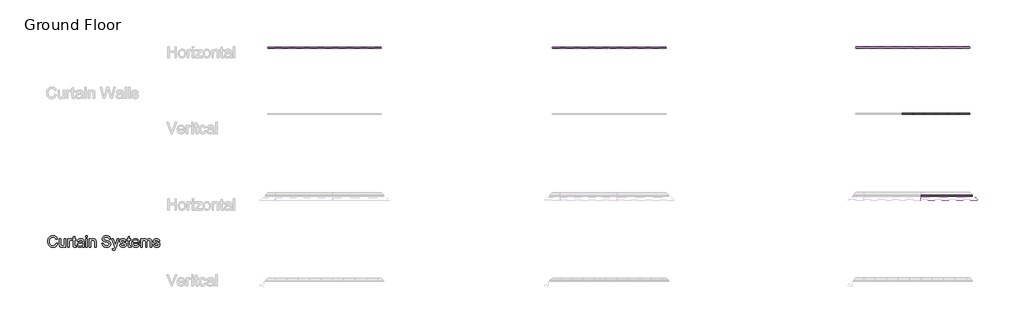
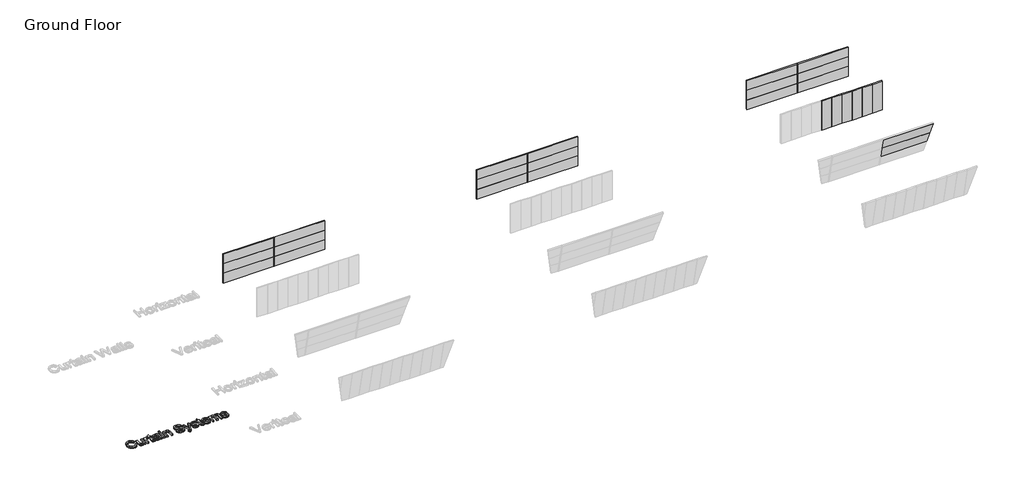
# One storey, part 2 of 7: 26 plates, 9 members, 1 proxy.
"""IFC4 building model written with IfcOpenShell, lengths in millimetres."""

from ifc_helpers import new_model, si_unit, origin, origin_with_axes, place, context, project, spatial, polyline, outline, extrude, transform, mapped, element, save
from components import rectangular_mullion_pi_mullion_20gap_50depth_70width_d0ed6173, system_panel_2c57112f, system_panel_1b0c88f6, system_panel_ba8f056f, system_panel_48e39383, system_panel_36b0335f, system_panel_5c141952

model = new_model("IFC4")

# Units and contexts
model_context = context("Model", 3, world=origin())
ifc_project = project(units=[si_unit("LENGTHUNIT", "METRE", prefix="MILLI")], contexts=[model_context])

# Site, building, storey
site = spatial("IfcSite", under=ifc_project)
building = spatial("IfcBuilding", under=site)
storey = spatial("IfcBuildingStorey", under=building, Name="Ground Floor", Elevation=0.0)

# Proxy
placement = place(None, origin())
element("IfcBuildingElementProxy", 1, Name="1200mm Arial", ObjectType="1200mm Arial", at=placement, inside=storey, context=model_context, shape_type="SweptSolid", body=[
    extrude(outline(polyline([(-73278.3441207, -15688.8792454), (-73131.4350298, -15726.7542454), (-73160.5048096, -15818.1151296), (-73178.6577304, -15859.4714196), (-73199.2226718, -15897.9449414), (-73222.1996338, -15933.5356952), (-73247.5886164, -15966.2436808), (-73275.3896196, -15996.0688983), (-73305.6026434, -16023.0113477), (-73337.9004062, -16046.9185964), (-73371.9556264, -16067.638212), (-73407.7683039, -16085.1701945), (-73445.3384389, -16099.5145437), (-73484.6660312, -16110.6712598), (-73525.7510809, -16118.6403427), (-73568.593588, -16123.4217925), (-73613.1935525, -16125.0156091), (-73702.7790461, -16120.1915679), (-73783.595186, -16105.7194443), (-73855.6419722, -16081.5992383), (-73918.9194048, -16047.83095), (-73974.2972457, -16004.9167099), (-74022.645257, -15953.3586488), (-74063.9634389, -15893.1567667), (-74098.2517911, -15824.3110636), (-74125.1785489, -15749.7984571), (-74144.4119474, -15672.5958647), (-74155.9519864, -15592.7032866), (-74159.7986661, -15510.1207227), (-74155.4498558, -15421.5125906), (-74142.4034247, -15338.7506943), (-74120.6593728, -15261.8350338), (-74090.2177002, -15190.7656091), (-74051.75987, -15126.7170473), (-74005.9673451, -15070.8639755), (-73952.8401256, -15023.2063939), (-73892.3782116, -14983.7443022), (-73826.6349587, -14952.800499), (-73757.663723, -14930.6977823), (-73685.4645042, -14917.4361524), (-73610.0373025, -14913.0156091), (-73526.0111129, -14918.7363122), (-73448.9609531, -14935.8984216), (-73413.0518844, -14948.7700036), (-73378.8868231, -14964.5019372), (-73346.4657693, -14983.0942223), (-73315.788723, -15004.5468591), (-73287.115716, -15028.5953321), (-73260.7067805, -15054.9751261), (-73236.5619163, -15083.6862412), (-73214.6811235, -15114.7286772), (-73177.7117521, -15183.8075125), (-73149.7986661, -15262.2116318), (-73296.707757, -15297.2173136), (-73319.8416349, -15239.4453853), (-73347.6381548, -15190.084146), (-73380.0973167, -15149.1335956), (-73417.2191207, -15116.5937341), (-73459.2187656, -15091.8010316), (-73506.3114502, -15074.0919585), (-73558.4971747, -15063.4665146), (-73615.7759389, -15059.9247), (-73681.6805908, -15063.8520792), (-73741.9542059, -15075.634217), (-73796.596784, -15095.2711133), (-73845.6083252, -15122.7627681), (-73888.3701328, -15156.871788), (-73924.2635099, -15196.3607795), (-73953.2884566, -15241.2297426), (-73975.444973, -15291.4786772), (-73991.8269864, -15344.8300622), (-74003.5284247, -15399.0063761), (-74010.5492876, -15454.007619), (-74012.8895752, -15509.8337909), (-74010.1188899, -15579.9886204), (-74001.8068337, -15645.5525409), (-73987.9534069, -15706.5255522), (-73968.5586093, -15762.9076545), (-73943.3086093, -15813.5780203), (-73911.8895752, -15857.4158221), (-73874.301507, -15894.42106), (-73830.5444048, -15924.5937341), (-73782.7433572, -15948.0055771), (-73733.0234531, -15964.7283221), (-73681.3846924, -15974.7619691), (-73627.8270752, -15978.1065181), (-73563.9578458, -15973.5514755), (-73505.1995894, -15959.8863477), (-73451.552306, -15937.1111346), (-73403.0159957, -15905.2258363), (-73360.7383856, -15864.3739187), (-73325.8672031, -15814.6988477), (-73298.4024481, -15756.2006233), (-73278.3441207, -15688.8792454)])), origin_with_axes(), (0.0, 0.0, 1.0), 150.0),
    extrude(outline(polyline([(-72396.8895752, -16106.6519727), (-72396.8895752, -15958.3082227), (-72422.3727073, -15997.3802664), (-72450.0436945, -16031.2427042), (-72479.9025369, -16059.8955363), (-72511.9492343, -16083.3387625), (-72546.1837869, -16101.5723828), (-72582.6061945, -16114.5963974), (-72621.2164573, -16122.4108061), (-72662.0145752, -16125.0156091), (-72698.410083, -16123.1864187), (-72733.5681974, -16117.6988477), (-72767.4889183, -16108.552896), (-72800.1722457, -16095.7485636), (-72830.1745539, -16080.1825125), (-72856.0522173, -16062.7514045), (-72877.8052357, -16043.4552397), (-72895.4336093, -16022.2940181), (-72909.8429666, -15998.9628747), (-72921.938936, -15973.1569443), (-72939.1907116, -15914.1207227), (-72945.6466775, -15858.45595), (-72947.7986661, -15777.5411772), (-72947.7986661, -15243.5610636), (-72800.8895752, -15243.5610636), (-72800.8895752, -15708.3906091), (-72798.6658536, -15801.3565181), (-72791.9946889, -15858.1690181), (-72783.1984353, -15884.647445), (-72770.5824019, -15908.131021), (-72754.1465887, -15928.6197461), (-72733.8909957, -15946.1136204), (-72710.4253529, -15960.1105132), (-72684.3593906, -15970.1082937), (-72655.6931086, -15976.106962), (-72624.426507, -15978.1065181), (-72592.2273771, -15976.0621289), (-72561.0504417, -15969.9289613), (-72530.8957009, -15959.7070153), (-72501.7631548, -15945.3962909), (-72475.2309282, -15927.561685), (-72452.8771462, -15906.7680948), (-72434.7018089, -15883.0155203), (-72420.7049161, -15856.3039613), (-72410.2857045, -15824.9297603), (-72402.8434105, -15787.1892596), (-72398.378034, -15743.0824592), (-72396.8895752, -15692.6093591), (-72396.8895752, -15243.5610636), (-72249.9804843, -15243.5610636), (-72249.9804843, -16106.6519727), (-72396.8895752, -16106.6519727)])), origin_with_axes(), (0.0, 0.0, 1.0), 150.0),
    extrude(outline(polyline([(-72047.9804843, -16106.6519727), (-72047.9804843, -15243.5610636), (-71919.4350298, -15243.5610636), (-71919.4350298, -15371.2457227), (-71895.2251576, -15330.4296716), (-71871.9478139, -15297.2173136), (-71849.6029985, -15271.6086488), (-71828.1907116, -15253.6036772), (-71806.7425582, -15241.1759429), (-71784.2901434, -15232.2989897), (-71760.8334673, -15226.9728179), (-71736.3725298, -15225.1974272), (-71699.9321889, -15228.0308789), (-71663.2049161, -15236.5312341), (-71626.1907116, -15250.6984926), (-71588.8895752, -15270.5326545), (-71637.9549161, -15402.2343591), (-71663.7787798, -15389.0534287), (-71689.6026434, -15379.6384784), (-71715.426507, -15373.9895082), (-71741.2503707, -15372.1065181), (-71763.7655518, -15373.9177752), (-71785.1150724, -15379.3515466), (-71805.2989325, -15388.4078321), (-71824.317132, -15401.0866318), (-71841.4523416, -15416.9754812), (-71855.9872315, -15435.6619159), (-71867.9218018, -15457.1459358), (-71877.2560525, -15481.4275409), (-71887.6752641, -15521.5262625), (-71895.1175582, -15563.4900409), (-71901.0713934, -15653.0127681), (-71901.0713934, -16106.6519727), (-72047.9804843, -16106.6519727)])), origin_with_axes(), (0.0, 0.0, 1.0), 150.0),
    extrude(outline(polyline([(-71184.8895752, -15984.1320863), (-71166.5259389, -16110.95595), (-71224.701365, -16121.5006943), (-71276.4208252, -16125.0156091), (-71313.9192272, -16123.4912838), (-71346.9343195, -16118.9183079), (-71375.4661022, -16111.2966815), (-71399.5145752, -16100.6264045), (-71419.7074019, -16087.4813406), (-71436.6722457, -16072.4353534), (-71450.4091065, -16055.4884429), (-71460.9179843, -16036.6406091), (-71468.7010099, -16011.3726758), (-71474.2603139, -15975.165467), (-71478.707757, -15869.9332227), (-71478.707757, -15390.4701545), (-71588.8895752, -15390.4701545), (-71588.8895752, -15243.5610636), (-71478.707757, -15243.5610636), (-71478.707757, -15033.8139045), (-71331.7986661, -14947.4474272), (-71331.7986661, -15243.5610636), (-71184.8895752, -15243.5610636), (-71184.8895752, -15390.4701545), (-71331.7986661, -15390.4701545), (-71331.7986661, -15865.6292454), (-71329.8618764, -15913.9772568), (-71324.051507, -15941.3792454), (-71313.901294, -15956.5507653), (-71298.944973, -15968.2073704), (-71277.7478849, -15975.6317312), (-71248.8753707, -15978.1065181), (-71184.8895752, -15984.1320863)])), origin_with_axes(), (0.0, 0.0, 1.0), 150.0),
    extrude(outline(polyline([(-70487.0713934, -15996.4701545), (-70521.9067095, -16029.1624485), (-70557.2620894, -16056.6541034), (-70593.1375333, -16078.945119), (-70629.5330411, -16096.0354954), (-70666.8610774, -16108.7142951), (-70705.5341065, -16117.7705806), (-70745.5521285, -16123.2043519), (-70786.9151434, -16125.0156091), (-70852.3266313, -16120.6578321), (-70909.6860951, -16107.5845011), (-70958.9935347, -16085.7956162), (-71000.2489502, -16055.2911772), (-71032.8246782, -16018.0079741), (-71056.0930553, -15975.8827966), (-71070.0540816, -15928.9156446), (-71074.707757, -15877.1065181), (-71072.9502997, -15845.9564826), (-71067.6779275, -15816.2052397), (-71058.8906406, -15787.8527894), (-71046.5884389, -15760.8991318), (-71031.4258856, -15735.9360636), (-71014.057544, -15713.5553818), (-70994.483414, -15693.7570863), (-70972.7034957, -15676.5411772), (-70924.104419, -15648.565325), (-70869.8384389, -15628.3366318), (-70816.9712514, -15617.0745579), (-70742.7276434, -15606.2428818), (-70592.5188366, -15583.0014045), (-70534.5227428, -15569.8742738), (-70487.9321889, -15555.7428818), (-70487.0713934, -15523.0326545), (-70489.5999801, -15487.4172426), (-70497.18574, -15457.4687341), (-70509.8286732, -15433.1871289), (-70527.5287798, -15414.5724272), (-70558.1228849, -15395.993592), (-70595.3881548, -15382.7229954), (-70639.3245894, -15374.7606375), (-70689.9321889, -15372.1065181), (-70736.989007, -15373.8729421), (-70777.4463934, -15379.1722142), (-70811.304348, -15388.0043342), (-70838.5628707, -15400.3693022), (-70860.9614857, -15417.2355132), (-70880.2397173, -15439.5713619), (-70896.3975653, -15467.3768484), (-70909.4350298, -15500.6519727), (-71056.3441207, -15482.2883363), (-71045.1627464, -15439.9658931), (-71030.8430553, -15401.9474272), (-71013.3850475, -15368.2329386), (-70992.788723, -15338.8224272), (-70968.1663863, -15313.1240963), (-70938.6303423, -15290.5461488), (-70904.1805908, -15271.0885849), (-70864.817132, -15254.7514045), (-70821.337995, -15241.8215394), (-70774.5412087, -15232.5859216), (-70724.4267734, -15227.0445508), (-70670.9946889, -15225.1974272), (-70618.7641313, -15226.8293519), (-70571.6804133, -15231.7251261), (-70529.7435347, -15239.8847497), (-70492.9534957, -15251.3082227), (-70461.005431, -15265.197516), (-70433.5944758, -15280.7546005), (-70410.7206299, -15297.9794762), (-70392.3838934, -15316.8721431), (-70377.5172386, -15337.8988654), (-70365.0536377, -15361.5259073), (-70347.335598, -15416.58095), (-70341.9556264, -15467.3678818), (-70340.1623025, -15545.1264045), (-70340.1623025, -15727.9019727), (-70338.2972457, -15887.1132653), (-70332.7020752, -15983.127825), (-70321.6552002, -16046.2169585), (-70303.4350298, -16106.6519727), (-70450.3441207, -16106.6519727), (-70463.3995184, -16082.1193022), (-70473.8725298, -16055.5781091), (-70487.0713934, -15996.4701545)]), holes=[polyline([(-70487.0713934, -15702.6519727), (-70531.4740923, -15715.3666389), (-70585.7759389, -15727.1129102), (-70724.0770752, -15747.7002681), (-70800.2933394, -15758.962342), (-70850.4705411, -15771.5156091), (-70883.3601008, -15787.7989897), (-70907.7134389, -15810.2514045), (-70922.7773593, -15837.1512625), (-70927.7986661, -15866.7769727), (-70925.0638472, -15889.6059855), (-70916.8593906, -15910.462342), (-70903.1852961, -15929.3460423), (-70884.0415639, -15946.2570863), (-70859.6075262, -15960.1912127), (-70830.0625156, -15970.1441602), (-70795.4065319, -15976.1159287), (-70755.6395752, -15978.1065181), (-70715.038723, -15975.9096964), (-70676.7333252, -15969.3192312), (-70640.723382, -15958.3351225), (-70607.0088934, -15942.9573704), (-70576.5941207, -15924.4592348), (-70550.4833252, -15904.1139755), (-70528.676507, -15881.9215927), (-70511.1736661, -15857.8820863), (-70501.0055198, -15836.3622), (-70493.7425582, -15810.2514045), (-70489.3847812, -15779.5497), (-70487.9321889, -15744.2570863), (-70487.0713934, -15702.6519727)])]), origin_with_axes(), (0.0, 0.0, 1.0), 150.0),
    extrude(outline(polyline([(-70138.1623025, -16106.6519727), (-70138.1623025, -15243.5610636), (-69991.2532116, -15243.5610636), (-69991.2532116, -16106.6519727), (-70138.1623025, -16106.6519727)])), origin_with_axes(), (0.0, 0.0, 1.0), 150.0),
    extrude(outline(polyline([(-70138.1623025, -15078.2883363), (-70138.1623025, -14931.3792454), (-69991.2532116, -14931.3792454), (-69991.2532116, -15078.2883363), (-70138.1623025, -15078.2883363)])), origin_with_axes(), (0.0, 0.0, 1.0), 150.0),
    extrude(outline(polyline([(-69770.8895752, -16106.6519727), (-69770.8895752, -15243.5610636), (-69623.9804843, -15243.5610636), (-69623.9804843, -15364.0724272), (-69599.7437123, -15331.5235991), (-69572.9424872, -15303.3146147), (-69543.5768089, -15279.4454741), (-69511.6466775, -15259.9161772), (-69477.152093, -15244.7267241), (-69440.0930553, -15233.8771147), (-69400.4695646, -15227.3673491), (-69358.2816207, -15225.1974272), (-69321.3122492, -15226.945918), (-69285.8672031, -15232.1913903), (-69251.9464822, -15240.9338441), (-69219.5500866, -15253.1732795), (-69189.9064431, -15268.2551332), (-69164.2439786, -15285.524842), (-69142.5626931, -15304.9824059), (-69124.8625866, -15326.627825), (-69098.142061, -15376.3746289), (-69080.8185525, -15434.6576545), (-69075.0081832, -15490.3941602), (-69073.0713934, -15576.6889045), (-69073.0713934, -16106.6519727), (-69219.9804843, -16106.6519727), (-69219.9804843, -15596.4872), (-69224.2127286, -15520.5220011), (-69229.503034, -15490.7707582), (-69236.9094616, -15466.5070863), (-69246.9969083, -15446.0721609), (-69260.3302712, -15427.8071573), (-69276.9095504, -15411.7120757), (-69296.7347457, -15397.7869159), (-69319.1243941, -15386.5517419), (-69343.3970326, -15378.5266176), (-69369.5526612, -15373.711543), (-69397.5912798, -15372.1065181), (-69442.2002109, -15375.7110991), (-69483.6349587, -15386.524842), (-69521.8955234, -15404.5477468), (-69556.9819048, -15429.7798136), (-69572.6846969, -15445.8166122), (-69586.2937833, -15465.0903605), (-69597.8091642, -15487.6010583), (-69607.2308394, -15513.3487056), (-69619.7930731, -15574.5548491), (-69623.9804843, -15648.7087909), (-69623.9804843, -16106.6519727), (-69770.8895752, -16106.6519727)])), origin_with_axes(), (0.0, 0.0, 1.0), 150.0),
    extrude(outline(polyline([(-68448.707757, -15702.6519727), (-68301.7986661, -15702.6519727), (-68295.0737016, -15745.4137802), (-68284.9414218, -15784.1764755), (-68271.4018266, -15818.9400586), (-68254.4549161, -15849.7045295), (-68233.2398948, -15877.0885849), (-68206.8959673, -15901.7109216), (-68175.4231335, -15923.5715394), (-68138.8213934, -15942.6704386), (-68098.43574, -15958.1737234), (-68055.6111661, -15969.2474983), (-68010.3476718, -15975.8917632), (-67962.645257, -15978.1065181), (-67920.4483465, -15976.4297603), (-67880.7979559, -15971.3994869), (-67843.6940852, -15963.0156978), (-67809.1367343, -15951.2783931), (-67777.9777322, -15936.6090039), (-67751.0689076, -15919.4289613), (-67728.4102606, -15899.7382653), (-67710.0017911, -15877.5369159), (-67695.753833, -15853.7843413), (-67685.5767201, -15829.4399698), (-67679.4704524, -15804.5038015), (-67677.4350298, -15778.9758363), (-67678.9593551, -15753.5554706), (-67683.5323309, -15729.802896), (-67691.1539573, -15707.7181126), (-67701.8242343, -15687.3011204), (-67717.2109531, -15668.44432), (-67738.9819048, -15651.0401119), (-67767.1370894, -15635.0884961), (-67801.676507, -15620.5894727), (-67879.2556974, -15597.5273278), (-68015.5841775, -15564.4943022), (-68156.001436, -15527.3724983), (-68207.2456654, -15509.4840927), (-68245.8469616, -15492.0440181), (-68285.0759211, -15468.6411417), (-68318.9787087, -15442.6200125), (-68347.5553245, -15413.9806304), (-68370.8057684, -15382.7229954), (-68388.8197066, -15349.1699059), (-68401.6868053, -15313.6441602), (-68409.4070646, -15276.1457582), (-68411.9804843, -15236.6747), (-68408.7973345, -15192.9265643), (-68399.2478849, -15150.631021), (-68383.3321356, -15109.78807), (-68361.0500866, -15070.3977113), (-68332.6528032, -15034.0649698), (-68298.3913508, -15002.3948704), (-68258.2657293, -14975.387413), (-68212.2759389, -14953.0425977), (-68161.9732045, -14935.5307902), (-68108.9087514, -14923.0223562), (-68053.0825795, -14915.5172958), (-67994.4946889, -14913.0156091), (-67930.5806264, -14915.6338619), (-67870.5401434, -14923.4886204), (-67814.37324, -14936.5798846), (-67762.0799161, -14954.9076545), (-67714.6285667, -14978.3105309), (-67672.9875866, -15006.6271147), (-67637.1569758, -15039.8574059), (-67607.1367343, -15078.0014045), (-67583.1599943, -15119.9472497), (-67565.4598877, -15164.5830806), (-67554.0364147, -15211.9088974), (-67548.8895752, -15261.9247), (-67695.7986661, -15261.9247), (-67705.6260809, -15215.0472142), (-67722.770257, -15174.2670295), (-67747.2311945, -15139.584146), (-67779.0088934, -15110.9985636), (-67818.6951505, -15088.6537483), (-67866.8817627, -15072.6931659), (-67923.5687301, -15063.1168164), (-67988.7560525, -15059.9247), (-68056.0236306, -15063.08095), (-68113.4996605, -15072.5497), (-68161.184142, -15088.33095), (-68199.0770752, -15110.4247), (-68227.9495894, -15136.9838264), (-68248.5728139, -15166.1612056), (-68260.9467485, -15197.9568377), (-68265.0713934, -15232.3707227), (-68262.1482755, -15261.9784997), (-68253.3789218, -15288.8245579), (-68238.7633323, -15312.9088974), (-68218.301507, -15334.2315181), (-68186.0934105, -15354.4243448), (-68135.3782116, -15374.8323704), (-68066.1559105, -15395.4555948), (-67978.426507, -15416.2940181), (-67816.4534957, -15455.6754102), (-67759.4616633, -15473.4831162), (-67718.4662798, -15490.0354954), (-67673.4269509, -15515.1240963), (-67634.7180553, -15543.3330806), (-67602.339593, -15574.6624485), (-67576.2915639, -15609.1122), (-67556.2691029, -15646.5030025), (-67541.9673451, -15686.6555238), (-67533.3862904, -15729.5697639), (-67530.5259389, -15775.2457227), (-67533.8166881, -15821.1996467), (-67543.688936, -15865.8085778), (-67560.1426825, -15909.072516), (-67583.1779275, -15950.9914613), (-67612.3911732, -15989.9424556), (-67647.3789218, -16024.3025409), (-67688.1411732, -16054.071717), (-67734.6779275, -16079.2499841), (-67785.6352251, -16099.272445), (-67839.6591065, -16113.5742028), (-67896.7495717, -16122.1552575), (-67956.9066207, -16125.0156091), (-68032.0558572, -16121.931092), (-68100.838794, -16112.6775409), (-68163.255431, -16097.2549556), (-68219.3057684, -16075.6633363), (-68269.3305376, -16047.8668164), (-68313.6704701, -16013.8295295), (-68352.325566, -15973.5514755), (-68385.2958252, -15927.0326545), (-68411.8549516, -15875.7794585), (-68431.2766491, -15821.2982795), (-68443.5609176, -15763.5891176), (-68448.707757, -15702.6519727)])), origin_with_axes(), (0.0, 0.0, 1.0), 150.0),
    extrude(outline(polyline([(-67328.5259389, -16437.1974272), (-67346.8895752, -16295.7400409), (-67306.8625866, -16305.4239897), (-67272.2873025, -16308.6519727), (-67233.0493764, -16304.5990608), (-67202.5628707, -16292.440325), (-67178.8192627, -16273.0365608), (-67159.8100298, -16247.2485636), (-67143.598382, -16209.3018306), (-67119.6395752, -16139.0752681), (-67108.1623025, -16103.4957227), (-67420.3441207, -15243.5610636), (-67265.4009389, -15243.5610636), (-67099.8412798, -15722.7372), (-67069.3547741, -15816.2769727), (-67042.1679843, -15914.4076545), (-66984.4946889, -15745.1178818), (-66814.3441207, -15243.5610636), (-66660.5486661, -15243.5610636), (-66960.9662798, -16127.3110636), (-67005.5841775, -16244.8096431), (-67039.0117343, -16318.9815181), (-67058.3258323, -16351.9248775), (-67078.96699, -16380.1697284), (-67100.9352073, -16403.7160707), (-67124.2304843, -16422.5639045), (-67149.3549516, -16437.0001616), (-67176.81074, -16447.3117738), (-67206.5978494, -16453.4987412), (-67238.7162798, -16455.5610636), (-67281.2539218, -16450.9701545), (-67328.5259389, -16437.1974272)])), origin_with_axes(), (0.0, 0.0, 1.0), 150.0),
    extrude(outline(polyline([(-66593.9804843, -15849.5610636), (-66447.0713934, -15831.1974272), (-66438.1944403, -15864.696717), (-66423.9016491, -15894.0354954), (-66404.1930198, -15919.2137625), (-66379.0685525, -15940.2315181), (-66348.4565141, -15956.8018306), (-66312.2851718, -15968.6377681), (-66270.5545255, -15975.7393306), (-66223.2645752, -15978.1065181), (-66176.0284247, -15975.9365963), (-66135.319973, -15969.4268306), (-66101.1392201, -15958.5772213), (-66073.4861661, -15943.3877681), (-66052.1456122, -15925.2751971), (-66036.9023593, -15905.6562341), (-66027.7564076, -15884.5308789), (-66024.707757, -15861.8991318), (-66027.7743408, -15842.0649698), (-66036.9740923, -15824.4545295), (-66052.3070113, -15809.0678108), (-66073.773098, -15795.9048136), (-66128.7922741, -15777.2542454), (-66224.9861661, -15754.0127681), (-66359.0550582, -15715.2411062), (-66446.210598, -15682.1363477), (-66476.1322066, -15665.5391353), (-66502.198169, -15646.0188051), (-66524.408485, -15623.5753569), (-66542.7631548, -15598.2087909), (-66557.1366455, -15570.6812696), (-66567.4034247, -15541.7549556), (-66573.5634921, -15511.4298491), (-66575.616848, -15479.70595), (-66573.96699, -15450.6989365), (-66569.0174161, -15422.7858505), (-66560.7681264, -15395.9666921), (-66549.2191207, -15370.2414613), (-66534.8187301, -15346.130222), (-66518.0152855, -15324.153038), (-66498.8087869, -15304.3099095), (-66477.1992343, -15286.6008363), (-66436.6342485, -15262.9648278), (-66383.8029275, -15243.1306659), (-66322.7223167, -15229.6807369), (-66257.4094616, -15225.1974272), (-66208.0392556, -15226.9997177), (-66161.7894332, -15232.4065892), (-66118.6599943, -15241.4180416), (-66078.6509389, -15254.034075), (-66042.7127286, -15269.7256588), (-66011.7958252, -15287.9637625), (-65985.9002286, -15308.748386), (-65965.0259389, -15332.0795295), (-65948.0969616, -15358.7731552), (-65934.0373025, -15389.6452255), (-65922.8469616, -15424.6957404), (-65914.5259389, -15463.9247), (-66061.4350298, -15482.2883363), (-66068.4379595, -15457.7466993), (-66079.9779985, -15436.0564471), (-66096.055147, -15417.2175799), (-66116.6694048, -15401.2300977), (-66141.9104381, -15388.4885316), (-66171.8679133, -15379.387413), (-66206.5418302, -15373.9267419), (-66245.9321889, -15372.1065181), (-66291.6260809, -15373.8460423), (-66330.2901434, -15379.0646147), (-66361.9243764, -15387.7622355), (-66386.5287798, -15399.9389045), (-66404.9820823, -15414.4289613), (-66418.1630127, -15430.0667454), (-66426.071571, -15446.8522568), (-66428.707757, -15464.7854954), (-66424.3320468, -15487.3813761), (-66411.2049161, -15507.5383363), (-66388.7525014, -15525.5433079), (-66356.4009389, -15539.9616318), (-66229.864007, -15571.2372), (-66100.0632258, -15609.6143306), (-66014.2347457, -15640.3877681), (-65984.0351718, -15655.3978889), (-65957.2787798, -15673.4566602), (-65933.9655695, -15694.5640821), (-65914.0955411, -15718.7201545), (-65898.2156583, -15745.960744), (-65886.8728849, -15776.321717), (-65880.0672208, -15809.8030735), (-65877.7986661, -15846.4048136), (-65880.4617521, -15883.1679528), (-65888.4510099, -15918.8550977), (-65901.7664396, -15953.4662483), (-65920.4080411, -15987.0014045), (-65944.0709495, -16018.1245402), (-65972.4502997, -16045.4996289), (-66005.5460916, -16069.1266708), (-66043.3583252, -16089.0056659), (-66084.8558394, -16104.760016), (-66129.007473, -16116.0131233), (-66175.8132258, -16122.7649876), (-66225.273098, -16125.0156091), (-66304.3407471, -16120.6757653), (-66373.4016491, -16107.6562341), (-66432.4558039, -16085.9570153), (-66481.5032116, -16055.5781091), (-66521.5660667, -16016.6629812), (-66553.6665639, -15969.3550977), (-66577.8047031, -15913.6544585), (-66593.9804843, -15849.5610636)])), origin_with_axes(), (0.0, 0.0, 1.0), 150.0),
    extrude(outline(polyline([(-65400.3441207, -15984.1320863), (-65381.9804843, -16110.95595), (-65440.1559105, -16121.5006943), (-65491.8753707, -16125.0156091), (-65529.3737727, -16123.4912838), (-65562.388865, -16118.9183079), (-65590.9206477, -16111.2966815), (-65614.9691207, -16100.6264045), (-65635.1619474, -16087.4813406), (-65652.1267911, -16072.4353534), (-65665.8636519, -16055.4884429), (-65676.3725298, -16036.6406091), (-65684.1555553, -16011.3726758), (-65689.7148593, -15975.165467), (-65694.1623025, -15869.9332227), (-65694.1623025, -15390.4701545), (-65804.3441207, -15390.4701545), (-65804.3441207, -15243.5610636), (-65694.1623025, -15243.5610636), (-65694.1623025, -15033.8139045), (-65547.2532116, -14947.4474272), (-65547.2532116, -15243.5610636), (-65400.3441207, -15243.5610636), (-65400.3441207, -15390.4701545), (-65547.2532116, -15390.4701545), (-65547.2532116, -15865.6292454), (-65545.3164218, -15913.9772568), (-65539.5060525, -15941.3792454), (-65529.3558394, -15956.5507653), (-65514.3995184, -15968.2073704), (-65493.2024303, -15975.6317312), (-65464.3299161, -15978.1065181), (-65400.3441207, -15984.1320863)])), origin_with_axes(), (0.0, 0.0, 1.0), 150.0),
    extrude(outline(polyline([(-64649.1566207, -15849.5610636), (-64505.116848, -15867.9247), (-64527.2016313, -15925.6159287), (-64557.0156406, -15976.4566602), (-64594.5588756, -16020.4468946), (-64639.8313366, -16057.5866318), (-64692.3667592, -16087.0868093), (-64751.6988792, -16108.1583647), (-64817.8276967, -16120.801298), (-64890.7532116, -16125.0156091), (-64937.5724144, -16123.197627), (-64981.9078636, -16117.7436808), (-65023.7595592, -16108.6537705), (-65063.1275014, -16095.927896), (-65100.0116899, -16079.5660574), (-65134.4121249, -16059.5682546), (-65166.3288064, -16035.9344878), (-65195.7617343, -16008.6647568), (-65222.1908448, -15978.1132431), (-65245.0960738, -15944.6341282), (-65264.4774215, -15908.2274121), (-65280.3348877, -15868.8930948), (-65292.6684726, -15826.6311763), (-65301.4781761, -15781.4416566), (-65306.7639982, -15733.3245357), (-65308.5259389, -15682.2798136), (-65306.7460649, -15629.497809), (-65301.4064431, -15579.7554883), (-65292.5070734, -15533.0528516), (-65280.0479559, -15489.3898988), (-65264.0290905, -15448.76663), (-65244.4504772, -15411.1830451), (-65221.3121161, -15376.6391442), (-65194.614007, -15345.1349272), (-65165.077963, -15317.0245757), (-65133.4257968, -15292.662271), (-65099.6575085, -15272.0480132), (-65063.773098, -15255.1818022), (-65025.7725653, -15242.0636382), (-64985.6559105, -15232.693521), (-64943.4231335, -15227.0714507), (-64899.0742343, -15225.1974272), (-64856.1756858, -15227.0669674), (-64815.2811768, -15232.6755877), (-64776.3907071, -15242.0232884), (-64739.5042769, -15255.1100693), (-64704.6218861, -15271.9359304), (-64671.7435347, -15292.5008718), (-64640.8692228, -15316.8048935), (-64611.9989502, -15344.8479954), (-64585.8724632, -15376.2804794), (-64563.2295078, -15410.7526474), (-64544.0700839, -15448.2644993), (-64528.3941917, -15488.8160352), (-64516.2018311, -15532.407255), (-64507.4930021, -15579.0381588), (-64502.2677047, -15628.7087465), (-64500.5259389, -15681.4190181), (-64501.3867343, -15721.0156091), (-65161.616848, -15721.0156091), (-65153.1075262, -15779.6393662), (-65136.1875156, -15830.9822284), (-65110.856816, -15875.0441957), (-65077.1154275, -15911.8252681), (-65036.8284069, -15940.823315), (-64991.860811, -15961.5362056), (-64942.2126399, -15973.96394), (-64887.8838934, -15978.1065181), (-64847.2471747, -15976.1876616), (-64809.694973, -15970.431092), (-64775.2272883, -15960.8368093), (-64743.8441207, -15947.4048136), (-64715.5454701, -15929.77644), (-64690.3313366, -15907.5930238), (-64668.2017201, -15880.854565), (-64649.1566207, -15849.5610636)]), holes=[polyline([(-65161.616848, -15574.1065181), (-64647.4350298, -15574.1065181), (-64654.9849232, -15532.537271), (-64667.3050582, -15496.4914613), (-64684.3954346, -15465.9690892), (-64706.2560525, -15440.9701545), (-64746.3189076, -15410.8423136), (-64791.9052002, -15389.3224272), (-64843.0149303, -15376.4104954), (-64899.648098, -15372.1065181), (-64951.3047918, -15375.5407333), (-64998.6754417, -15385.8433789), (-65041.7600475, -15403.0144549), (-65080.5586093, -15427.0539613), (-65113.1164041, -15456.8500373), (-65137.4787087, -15491.2908221), (-65153.6455234, -15530.3763157), (-65161.616848, -15574.1065181)])]), origin_with_axes(), (0.0, 0.0, 1.0), 150.0),
    extrude(outline(polyline([(-64353.616848, -16106.6519727), (-64353.616848, -15243.5610636), (-64206.707757, -15243.5610636), (-64206.707757, -15385.5923136), (-64186.192132, -15351.2053285), (-64162.520257, -15320.3511914), (-64135.692132, -15293.0299024), (-64105.707757, -15269.2414613), (-64073.0513295, -15249.9721964), (-64038.2070468, -15236.2084358), (-64001.174909, -15227.9501794), (-63961.9549161, -15225.1974272), (-63919.0765426, -15228.0039791), (-63880.2510809, -15236.4236346), (-63845.4785312, -15250.4563939), (-63814.7588934, -15270.1022568), (-63788.1818337, -15294.805293), (-63765.8370184, -15324.0095721), (-63747.7244474, -15357.7150941), (-63733.8441207, -15395.9218591), (-63708.0112904, -15355.9083203), (-63680.2954701, -15321.2299201), (-63650.6966597, -15291.8866584), (-63619.2148593, -15267.8785352), (-63585.8500688, -15249.2055505), (-63550.6022883, -15235.8677042), (-63513.4715177, -15227.8649965), (-63474.457757, -15225.1974272), (-63415.6457009, -15229.6359038), (-63364.0248735, -15242.9513335), (-63319.5952748, -15265.1437163), (-63282.3569048, -15296.2130522), (-63252.9194935, -15336.5180061), (-63231.8927712, -15386.4172426), (-63219.2767379, -15445.9107618), (-63215.0713934, -15514.9985636), (-63215.0713934, -16106.6519727), (-63361.9804843, -16106.6519727), (-63361.9804843, -15578.1235636), (-63365.3877997, -15504.8483505), (-63375.6097457, -15455.4602113), (-63383.8052357, -15437.6435387), (-63394.7624445, -15421.6381233), (-63408.4813721, -15407.4439649), (-63424.9620184, -15395.0610636), (-63443.60362, -15385.01845), (-63463.8054133, -15377.8451545), (-63508.8895752, -15372.1065181), (-63550.5215887, -15375.7828321), (-63588.4772883, -15386.8117738), (-63622.7566739, -15405.1933434), (-63653.3597457, -15430.9275409), (-63678.5290461, -15464.7675622), (-63696.5071178, -15507.4666034), (-63707.2939609, -15559.0246644), (-63710.8895752, -15619.4417454), (-63710.8895752, -16106.6519727), (-63857.7986661, -16106.6519727), (-63857.7986661, -15561.76845), (-63859.9237549, -15517.2581517), (-63866.2990212, -15478.7016886), (-63876.9244651, -15446.0990608), (-63891.8000866, -15419.4502681), (-63911.5176825, -15398.7373775), (-63936.6690497, -15383.9424556), (-63967.2541881, -15375.0655025), (-64003.273098, -15372.1065181), (-64032.1276789, -15374.0791744), (-64059.8703991, -15379.9971431), (-64086.5012585, -15389.8604244), (-64112.020257, -15403.6690181), (-64135.2617343, -15421.2794585), (-64155.0600298, -15442.5482795), (-64171.4151434, -15467.4754812), (-64184.3270752, -15496.0610636), (-64194.1186235, -15529.8293519), (-64201.1125866, -15570.3046716), (-64206.707757, -15671.3764045), (-64206.707757, -16106.6519727), (-64353.616848, -16106.6519727)])), origin_with_axes(), (0.0, 0.0, 1.0), 150.0),
    extrude(outline(polyline([(-63049.7986661, -15849.5610636), (-62902.8895752, -15831.1974272), (-62894.0126221, -15864.696717), (-62879.7198309, -15894.0354954), (-62860.0112016, -15919.2137625), (-62834.8867343, -15940.2315181), (-62804.274696, -15956.8018306), (-62768.1033536, -15968.6377681), (-62726.3727073, -15975.7393306), (-62679.082757, -15978.1065181), (-62631.8466065, -15975.9365963), (-62591.1381548, -15969.4268306), (-62556.9574019, -15958.5772213), (-62529.304348, -15943.3877681), (-62507.963794, -15925.2751971), (-62492.7205411, -15905.6562341), (-62483.5745894, -15884.5308789), (-62480.5259389, -15861.8991318), (-62483.5925227, -15842.0649698), (-62492.7922741, -15824.4545295), (-62508.1251931, -15809.0678108), (-62529.5912798, -15795.9048136), (-62584.6104559, -15777.2542454), (-62680.804348, -15754.0127681), (-62814.87324, -15715.2411062), (-62902.0287798, -15682.1363477), (-62931.9503884, -15665.5391353), (-62958.0163508, -15646.0188051), (-62980.2266668, -15623.5753569), (-62998.5813366, -15598.2087909), (-63012.9548274, -15570.6812696), (-63023.2216065, -15541.7549556), (-63029.3816739, -15511.4298491), (-63031.4350298, -15479.70595), (-63029.7851718, -15450.6989365), (-63024.835598, -15422.7858505), (-63016.5863082, -15395.9666921), (-63005.0373025, -15370.2414613), (-62990.6369119, -15346.130222), (-62973.8334673, -15324.153038), (-62954.6269687, -15304.3099095), (-62933.0174161, -15286.6008363), (-62892.4524303, -15262.9648278), (-62839.6211093, -15243.1306659), (-62778.5404985, -15229.6807369), (-62713.2276434, -15225.1974272), (-62663.8574374, -15226.9997177), (-62617.607615, -15232.4065892), (-62574.4781761, -15241.4180416), (-62534.4691207, -15254.034075), (-62498.5309105, -15269.7256588), (-62467.614007, -15287.9637625), (-62441.7184105, -15308.748386), (-62420.8441207, -15332.0795295), (-62403.9151434, -15358.7731552), (-62389.8554843, -15389.6452255), (-62378.6651434, -15424.6957404), (-62370.3441207, -15463.9247), (-62517.2532116, -15482.2883363), (-62524.2561413, -15457.7466993), (-62535.7961803, -15436.0564471), (-62551.8733288, -15417.2175799), (-62572.4875866, -15401.2300977), (-62597.72862, -15388.4885316), (-62627.6860951, -15379.387413), (-62662.360012, -15373.9267419), (-62701.7503707, -15372.1065181), (-62747.4442627, -15373.8460423), (-62786.1083252, -15379.0646147), (-62817.7425582, -15387.7622355), (-62842.3469616, -15399.9389045), (-62860.8002641, -15414.4289613), (-62873.9811945, -15430.0667454), (-62881.8897528, -15446.8522568), (-62884.5259389, -15464.7854954), (-62880.1502286, -15487.3813761), (-62867.023098, -15507.5383363), (-62844.5706832, -15525.5433079), (-62812.2191207, -15539.9616318), (-62685.6821889, -15571.2372), (-62555.8814076, -15609.6143306), (-62470.0529275, -15640.3877681), (-62439.8533536, -15655.3978889), (-62413.0969616, -15673.4566602), (-62389.7837514, -15694.5640821), (-62369.913723, -15718.7201545), (-62354.0338401, -15745.960744), (-62342.6910667, -15776.321717), (-62335.8854026, -15809.8030735), (-62333.616848, -15846.4048136), (-62336.2799339, -15883.1679528), (-62344.2691917, -15918.8550977), (-62357.5846214, -15953.4662483), (-62376.226223, -15987.0014045), (-62399.8891313, -16018.1245402), (-62428.2684815, -16045.4996289), (-62461.3642734, -16069.1266708), (-62499.176507, -16089.0056659), (-62540.6740212, -16104.760016), (-62584.8256548, -16116.0131233), (-62631.6314076, -16122.7649876), (-62681.0912798, -16125.0156091), (-62760.1589289, -16120.6757653), (-62829.2198309, -16107.6562341), (-62888.2739857, -16085.9570153), (-62937.3213934, -16055.5781091), (-62977.3842485, -16016.6629812), (-63009.4847457, -15969.3550977), (-63033.6228849, -15913.6544585), (-63049.7986661, -15849.5610636)])), origin_with_axes(), (0.0, 0.0, 1.0), 150.0),
])

# Members
rectangular_mullion_pi_mullion_20gap_50depth_70width_shape = rectangular_mullion_pi_mullion_20gap_50depth_70width_d0ed6173(model_context)
element("IfcMember", 2, ObjectType="Rectangular Mullion : PI-Mullion - 20Gap-50Depth-70Width", at=placement, inside=storey, context=model_context, shape_type="MappedRepresentation", body=[
    mapped(rectangular_mullion_pi_mullion_20gap_50depth_70width_shape, transform((-44997.533429, 4866.6714822, 2400.0), x_axis=(1.0, 0.0, 0.0), y_axis=(0.0, -1.0, 0.0), z_axis=(0.0, 0.0, -1.0))),
])
element("IfcMember", 3, ObjectType="Rectangular Mullion : PI-Mullion - 20Gap-50Depth-70Width", at=placement, inside=storey, context=model_context, shape_type="MappedRepresentation", body=[
    mapped(rectangular_mullion_pi_mullion_20gap_50depth_70width_shape, transform((17002.466571, 4866.6714822, 2400.0), x_axis=(1.0, 0.0, 0.0), y_axis=(0.0, -1.0, 0.0), z_axis=(0.0, 0.0, -1.0))),
])
element("IfcMember", 4, ObjectType="Rectangular Mullion : PI-Mullion - 20Gap-50Depth-70Width", at=placement, inside=storey, context=model_context, shape_type="MappedRepresentation", body=[
    mapped(rectangular_mullion_pi_mullion_20gap_50depth_70width_shape, transform((-14997.533429, 4866.6714822, 2400.0), x_axis=(1.0, 0.0, 0.0), y_axis=(0.0, -1.0, 0.0), z_axis=(0.0, 0.0, -1.0))),
])
element("IfcMember", 5, ObjectType="Rectangular Mullion : PI-Mullion - 20Gap-50Depth-70Width", at=placement, inside=storey, context=model_context, shape_type="MappedRepresentation", body=[
    mapped(rectangular_mullion_pi_mullion_20gap_50depth_70width_shape, transform((-44997.533429, 4866.6714822, 1200.0), x_axis=(1.0, 0.0, 0.0), y_axis=(0.0, -1.0, 0.0), z_axis=(0.0, 0.0, -1.0))),
])
element("IfcMember", 6, ObjectType="Rectangular Mullion : PI-Mullion - 20Gap-50Depth-70Width", at=placement, inside=storey, context=model_context, shape_type="MappedRepresentation", body=[
    mapped(rectangular_mullion_pi_mullion_20gap_50depth_70width_shape, transform((17002.466571, 4866.6714822, 1200.0), x_axis=(1.0, 0.0, 0.0), y_axis=(0.0, -1.0, 0.0), z_axis=(0.0, 0.0, -1.0))),
])
element("IfcMember", 7, ObjectType="Rectangular Mullion : PI-Mullion - 20Gap-50Depth-70Width", at=placement, inside=storey, context=model_context, shape_type="MappedRepresentation", body=[
    mapped(rectangular_mullion_pi_mullion_20gap_50depth_70width_shape, transform((-14997.533429, 4866.6714822, 1200.0), x_axis=(1.0, 0.0, 0.0), y_axis=(0.0, -1.0, 0.0), z_axis=(0.0, 0.0, -1.0))),
])
element("IfcMember", 8, ObjectType="Rectangular Mullion : PI-Mullion - 20Gap-50Depth-70Width", at=placement, inside=storey, context=model_context, shape_type="MappedRepresentation", body=[
    mapped(rectangular_mullion_pi_mullion_20gap_50depth_70width_shape, transform((-44997.533429, 4866.6714822, 0.0), x_axis=(1.0, 0.0, 0.0), y_axis=(0.0, -1.0, 0.0), z_axis=(0.0, 0.0, -1.0))),
])
element("IfcMember", 9, ObjectType="Rectangular Mullion : PI-Mullion - 20Gap-50Depth-70Width", at=placement, inside=storey, context=model_context, shape_type="MappedRepresentation", body=[
    mapped(rectangular_mullion_pi_mullion_20gap_50depth_70width_shape, transform((17002.466571, 4866.6714822, 0.0), x_axis=(1.0, 0.0, 0.0), y_axis=(0.0, -1.0, 0.0), z_axis=(0.0, 0.0, -1.0))),
])
element("IfcMember", 10, ObjectType="Rectangular Mullion : PI-Mullion - 20Gap-50Depth-70Width", at=placement, inside=storey, context=model_context, shape_type="MappedRepresentation", body=[
    mapped(rectangular_mullion_pi_mullion_20gap_50depth_70width_shape, transform((-14997.533429, 4866.6714822, 0.0), x_axis=(1.0, 0.0, 0.0), y_axis=(0.0, -1.0, 0.0), z_axis=(0.0, 0.0, -1.0))),
])

# Plates
system_panel_shape = system_panel_2c57112f(model_context)
element("IfcPlate", 11, ObjectType="System Panel : Equitilt 150mm Horizontal - Plain RHEA - MW", at=placement, inside=storey, context=model_context, shape_type="MappedRepresentation", body=[
    mapped(system_panel_shape, transform((13997.466571, 4866.6714822, 0.0), x_axis=(1.0, 0.0, 0.0), y_axis=(0.0, 1.0, 0.0), z_axis=(0.0, 0.0, 1.0))),
])
element("IfcPlate", 12, ObjectType="System Panel : Equitilt 150mm Horizontal - Plain RHEA - MW", at=placement, inside=storey, context=model_context, shape_type="MappedRepresentation", body=[
    mapped(system_panel_shape, transform((13997.466571, 4866.6714822, 1200.0), x_axis=(1.0, 0.0, 0.0), y_axis=(0.0, 1.0, 0.0), z_axis=(0.0, 0.0, 1.0))),
])
element("IfcPlate", 13, ObjectType="System Panel : Equitilt 150mm Horizontal - Plain RHEA - MW", at=placement, inside=storey, context=model_context, shape_type="MappedRepresentation", body=[
    mapped(system_panel_shape, transform((13997.466571, 4866.6714822, 2400.0), x_axis=(1.0, 0.0, 0.0), y_axis=(0.0, 1.0, 0.0), z_axis=(0.0, 0.0, 1.0))),
])
element("IfcPlate", 14, ObjectType="System Panel : Equitilt 150mm Horizontal - Plain RHEA - MW", at=placement, inside=storey, context=model_context, shape_type="MappedRepresentation", body=[
    mapped(system_panel_shape, transform((20007.466571, 4866.6714822, 0.0), x_axis=(1.0, 0.0, 0.0), y_axis=(0.0, 1.0, 0.0), z_axis=(0.0, 0.0, 1.0))),
])
element("IfcPlate", 15, ObjectType="System Panel : Equitilt 150mm Horizontal - Plain RHEA - MW", at=placement, inside=storey, context=model_context, shape_type="MappedRepresentation", body=[
    mapped(system_panel_shape, transform((20007.466571, 4866.6714822, 1200.0), x_axis=(1.0, 0.0, 0.0), y_axis=(0.0, 1.0, 0.0), z_axis=(0.0, 0.0, 1.0))),
])
element("IfcPlate", 16, ObjectType="System Panel : Equitilt 150mm Horizontal - Plain RHEA - MW", at=placement, inside=storey, context=model_context, shape_type="MappedRepresentation", body=[
    mapped(system_panel_shape, transform((20007.466571, 4866.6714822, 2400.0), x_axis=(1.0, 0.0, 0.0), y_axis=(0.0, 1.0, 0.0), z_axis=(0.0, 0.0, 1.0))),
])
system_panel_2_shape = system_panel_1b0c88f6(model_context)
element("IfcPlate", 17, ObjectType="System Panel : Equitilt 150mm Horizontal - Plain RHEA - MW", at=placement, inside=storey, context=model_context, shape_type="MappedRepresentation", body=[
    mapped(system_panel_2_shape, transform((20673.3382329, -10722.1377115, 1173.9224783), x_axis=(-1.0, 0.0, 0.0), y_axis=(0.0, -0.978268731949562, -0.20734099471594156), z_axis=(0.0, -0.20734099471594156, 0.978268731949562))),
])
system_panel_3_shape = system_panel_ba8f056f(model_context)
element("IfcPlate", 18, ObjectType="System Panel : Equitilt 150mm Horizontal - Plain RHEA - MW", at=placement, inside=storey, context=model_context, shape_type="MappedRepresentation", body=[
    mapped(system_panel_3_shape, transform((20803.7740638, -10970.9469052, 2347.8449567), x_axis=(-1.0, 0.0, 0.0), y_axis=(0.0, -0.978268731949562, -0.20734099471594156), z_axis=(0.0, -0.20734099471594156, 0.978268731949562))),
])
system_panel_4_shape = system_panel_48e39383(model_context)
element("IfcPlate", 19, ObjectType="System Panel : Equitilt 100mm Horizontal - Plain RHEA - MW", at=placement, inside=storey, context=model_context, shape_type="MappedRepresentation", body=[
    mapped(system_panel_4_shape, transform((-18002.533429, 4866.6714822, 0.0), x_axis=(1.0, 0.0, 0.0), y_axis=(0.0, 1.0, 0.0), z_axis=(0.0, 0.0, 1.0))),
])
element("IfcPlate", 20, ObjectType="System Panel : Equitilt 100mm Horizontal - Plain RHEA - MW", at=placement, inside=storey, context=model_context, shape_type="MappedRepresentation", body=[
    mapped(system_panel_4_shape, transform((-18002.533429, 4866.6714822, 1200.0), x_axis=(1.0, 0.0, 0.0), y_axis=(0.0, 1.0, 0.0), z_axis=(0.0, 0.0, 1.0))),
])
element("IfcPlate", 21, ObjectType="System Panel : Equitilt 100mm Horizontal - Plain RHEA - MW", at=placement, inside=storey, context=model_context, shape_type="MappedRepresentation", body=[
    mapped(system_panel_4_shape, transform((-18002.533429, 4866.6714822, 2400.0), x_axis=(1.0, 0.0, 0.0), y_axis=(0.0, 1.0, 0.0), z_axis=(0.0, 0.0, 1.0))),
])
element("IfcPlate", 22, ObjectType="System Panel : Equitilt 100mm Horizontal - Plain RHEA - MW", at=placement, inside=storey, context=model_context, shape_type="MappedRepresentation", body=[
    mapped(system_panel_4_shape, transform((-11992.533429, 4866.6714822, 0.0), x_axis=(1.0, 0.0, 0.0), y_axis=(0.0, 1.0, 0.0), z_axis=(0.0, 0.0, 1.0))),
])
element("IfcPlate", 23, ObjectType="System Panel : Equitilt 100mm Horizontal - Plain RHEA - MW", at=placement, inside=storey, context=model_context, shape_type="MappedRepresentation", body=[
    mapped(system_panel_4_shape, transform((-11992.533429, 4866.6714822, 1200.0), x_axis=(1.0, 0.0, 0.0), y_axis=(0.0, 1.0, 0.0), z_axis=(0.0, 0.0, 1.0))),
])
element("IfcPlate", 24, ObjectType="System Panel : Equitilt 100mm Horizontal - Plain RHEA - MW", at=placement, inside=storey, context=model_context, shape_type="MappedRepresentation", body=[
    mapped(system_panel_4_shape, transform((-11992.533429, 4866.6714822, 2400.0), x_axis=(1.0, 0.0, 0.0), y_axis=(0.0, 1.0, 0.0), z_axis=(0.0, 0.0, 1.0))),
])
system_panel_5_shape = system_panel_36b0335f(model_context)
element("IfcPlate", 25, ObjectType="System Panel : Equitilt 150mm Vertical - Plain RHEA - MW", at=placement, inside=storey, context=model_context, shape_type="MappedRepresentation", body=[
    mapped(system_panel_5_shape, transform((16402.466571, -2133.3285178, 0.0), x_axis=(1.0, 0.0, 0.0), y_axis=(0.0, 1.0, 0.0), z_axis=(0.0, 0.0, 1.0))),
])
element("IfcPlate", 26, ObjectType="System Panel : Equitilt 150mm Vertical - Plain RHEA - MW", at=placement, inside=storey, context=model_context, shape_type="MappedRepresentation", body=[
    mapped(system_panel_5_shape, transform((17602.466571, -2133.3285178, 0.0), x_axis=(1.0, 0.0, 0.0), y_axis=(0.0, 1.0, 0.0), z_axis=(0.0, 0.0, 1.0))),
])
element("IfcPlate", 27, ObjectType="System Panel : Equitilt 150mm Vertical - Plain RHEA - MW", at=placement, inside=storey, context=model_context, shape_type="MappedRepresentation", body=[
    mapped(system_panel_5_shape, transform((18802.466571, -2133.3285178, 0.0), x_axis=(1.0, 0.0, 0.0), y_axis=(0.0, 1.0, 0.0), z_axis=(0.0, 0.0, 1.0))),
])
element("IfcPlate", 28, ObjectType="System Panel : Equitilt 150mm Vertical - Plain RHEA - MW", at=placement, inside=storey, context=model_context, shape_type="MappedRepresentation", body=[
    mapped(system_panel_5_shape, transform((20002.466571, -2133.3285178, 0.0), x_axis=(1.0, 0.0, 0.0), y_axis=(0.0, 1.0, 0.0), z_axis=(0.0, 0.0, 1.0))),
])
element("IfcPlate", 29, ObjectType="System Panel : Equitilt 150mm Vertical - Plain RHEA - MW", at=placement, inside=storey, context=model_context, shape_type="MappedRepresentation", body=[
    mapped(system_panel_5_shape, transform((21202.466571, -2133.3285178, 0.0), x_axis=(1.0, 0.0, 0.0), y_axis=(0.0, 1.0, 0.0), z_axis=(0.0, 0.0, 1.0))),
])
element("IfcPlate", 30, ObjectType="System Panel : Equitilt 150mm Vertical - Plain RHEA - MW", at=placement, inside=storey, context=model_context, shape_type="MappedRepresentation", body=[
    mapped(system_panel_5_shape, transform((22402.466571, -2133.3285178, 0.0), x_axis=(1.0, 0.0, 0.0), y_axis=(0.0, 1.0, 0.0), z_axis=(0.0, 0.0, 1.0))),
])
system_panel_6_shape = system_panel_5c141952(model_context)
element("IfcPlate", 31, ObjectType="System Panel : Equitilt 75mm Vertical - Plain RHEA - MW", at=placement, inside=storey, context=model_context, shape_type="MappedRepresentation", body=[
    mapped(system_panel_6_shape, transform((-48002.533429, 4866.6714822, 0.0), x_axis=(1.0, 0.0, 0.0), y_axis=(0.0, 1.0, 0.0), z_axis=(0.0, 0.0, 1.0))),
])
element("IfcPlate", 32, ObjectType="System Panel : Equitilt 75mm Vertical - Plain RHEA - MW", at=placement, inside=storey, context=model_context, shape_type="MappedRepresentation", body=[
    mapped(system_panel_6_shape, transform((-48002.533429, 4866.6714822, 1200.0), x_axis=(1.0, 0.0, 0.0), y_axis=(0.0, 1.0, 0.0), z_axis=(0.0, 0.0, 1.0))),
])
element("IfcPlate", 33, ObjectType="System Panel : Equitilt 75mm Vertical - Plain RHEA - MW", at=placement, inside=storey, context=model_context, shape_type="MappedRepresentation", body=[
    mapped(system_panel_6_shape, transform((-48002.533429, 4866.6714822, 2400.0), x_axis=(1.0, 0.0, 0.0), y_axis=(0.0, 1.0, 0.0), z_axis=(0.0, 0.0, 1.0))),
])
element("IfcPlate", 34, ObjectType="System Panel : Equitilt 75mm Vertical - Plain RHEA - MW", at=placement, inside=storey, context=model_context, shape_type="MappedRepresentation", body=[
    mapped(system_panel_6_shape, transform((-41992.533429, 4866.6714822, 0.0), x_axis=(1.0, 0.0, 0.0), y_axis=(0.0, 1.0, 0.0), z_axis=(0.0, 0.0, 1.0))),
])
element("IfcPlate", 35, ObjectType="System Panel : Equitilt 75mm Vertical - Plain RHEA - MW", at=placement, inside=storey, context=model_context, shape_type="MappedRepresentation", body=[
    mapped(system_panel_6_shape, transform((-41992.533429, 4866.6714822, 1200.0), x_axis=(1.0, 0.0, 0.0), y_axis=(0.0, 1.0, 0.0), z_axis=(0.0, 0.0, 1.0))),
])
element("IfcPlate", 36, ObjectType="System Panel : Equitilt 75mm Vertical - Plain RHEA - MW", at=placement, inside=storey, context=model_context, shape_type="MappedRepresentation", body=[
    mapped(system_panel_6_shape, transform((-41992.533429, 4866.6714822, 2400.0), x_axis=(1.0, 0.0, 0.0), y_axis=(0.0, 1.0, 0.0), z_axis=(0.0, 0.0, 1.0))),
])

save(model, "model.ifc")
